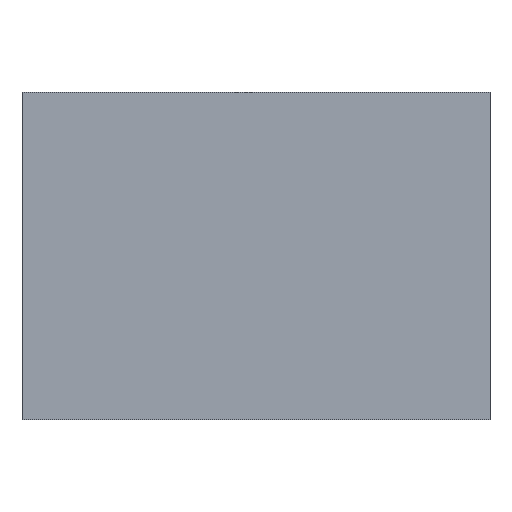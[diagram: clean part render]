
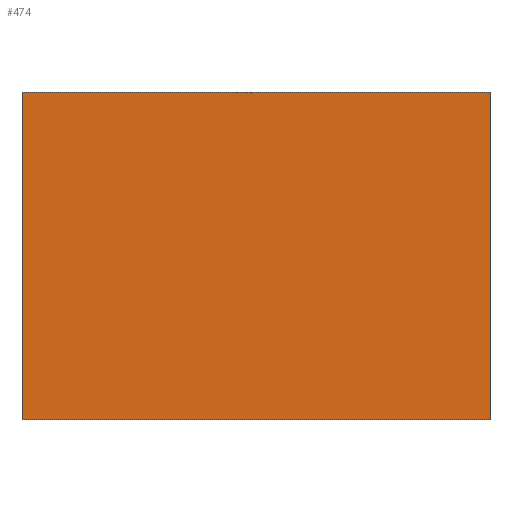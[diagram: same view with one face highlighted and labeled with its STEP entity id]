
A CAD part, top view. The second image highlights one B-rep face of the part: STEP entity #474.
In plain terms, the highlighted planar face has unit normal (0, 0, 1).
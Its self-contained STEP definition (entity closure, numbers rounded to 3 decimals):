
#6 = EDGE_CURVE ( 'NONE', #826, #573, #939, .T. ) ;
#54 = ORIENTED_EDGE ( 'NONE', *, *, #1228, .T. ) ;
#125 = DIRECTION ( 'NONE',  ( 0., 1., 0. ) ) ;
#131 = AXIS2_PLACEMENT_3D ( 'NONE', #150, #461, #274 ) ;
#150 = CARTESIAN_POINT ( 'NONE',  ( 0., 0., 10. ) ) ;
#224 = LINE ( 'NONE', #608, #603 ) ;
#226 = EDGE_CURVE ( 'NONE', #565, #424, #224, .T. ) ;
#274 = DIRECTION ( 'NONE',  ( 1., 0., 0. ) ) ;
#287 = EDGE_CURVE ( 'NONE', #573, #565, #428, .T. ) ;
#290 = ORIENTED_EDGE ( 'NONE', *, *, #287, .T. ) ;
#339 = VECTOR ( 'NONE', #911, 1000. ) ;
#374 = VECTOR ( 'NONE', #125, 1000. ) ;
#424 = VERTEX_POINT ( 'NONE', #945 ) ;
#428 = LINE ( 'NONE', #728, #374 ) ;
#461 = DIRECTION ( 'NONE',  ( 0., 0., 1. ) ) ;
#469 = EDGE_LOOP ( 'NONE', ( #54, #1173, #290, #846 ) ) ;
#474 = ADVANCED_FACE ( 'NONE', ( #1120 ), #555, .T. ) ;
#529 = CARTESIAN_POINT ( 'NONE',  ( -25., 17.5, 10. ) ) ;
#555 = PLANE ( 'NONE',  #131 ) ;
#565 = VERTEX_POINT ( 'NONE', #962 ) ;
#573 = VERTEX_POINT ( 'NONE', #776 ) ;
#603 = VECTOR ( 'NONE', #993, 1000. ) ;
#608 = CARTESIAN_POINT ( 'NONE',  ( -25., 17.5, 10. ) ) ;
#659 = DIRECTION ( 'NONE',  ( 1., 0., 0. ) ) ;
#728 = CARTESIAN_POINT ( 'NONE',  ( 25., 17.5, 10. ) ) ;
#776 = CARTESIAN_POINT ( 'NONE',  ( 25., -17.5, 10. ) ) ;
#826 = VERTEX_POINT ( 'NONE', #1204 ) ;
#846 = ORIENTED_EDGE ( 'NONE', *, *, #226, .T. ) ;
#911 = DIRECTION ( 'NONE',  ( 0., -1., 0. ) ) ;
#939 = LINE ( 'NONE', #947, #950 ) ;
#945 = CARTESIAN_POINT ( 'NONE',  ( -25., 17.5, 10. ) ) ;
#947 = CARTESIAN_POINT ( 'NONE',  ( -25., -17.5, 10. ) ) ;
#950 = VECTOR ( 'NONE', #659, 1000. ) ;
#962 = CARTESIAN_POINT ( 'NONE',  ( 25., 17.5, 10. ) ) ;
#993 = DIRECTION ( 'NONE',  ( -1., 0., 0. ) ) ;
#1101 = LINE ( 'NONE', #529, #339 ) ;
#1120 = FACE_OUTER_BOUND ( 'NONE', #469, .T. ) ;
#1173 = ORIENTED_EDGE ( 'NONE', *, *, #6, .T. ) ;
#1204 = CARTESIAN_POINT ( 'NONE',  ( -25., -17.5, 10. ) ) ;
#1228 = EDGE_CURVE ( 'NONE', #424, #826, #1101, .T. ) ;
